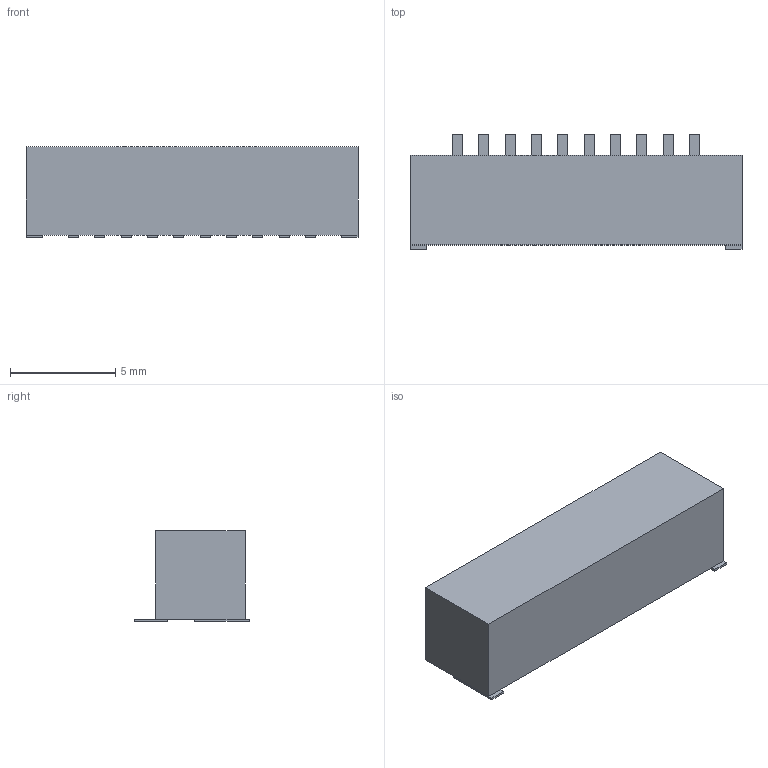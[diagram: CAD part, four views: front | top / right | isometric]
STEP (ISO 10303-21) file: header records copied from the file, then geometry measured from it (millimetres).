
FILE_DESCRIPTION(('FreeCAD Model'),'2;1');
FILE_NAME('/var/www/3D/0T/20812296.1.1.stp','2025-10-16T15:20:15',( 'Author'),(''),'Open CASCADE STEP processor 6.9','FreeCAD','Unknown' );
FILE_SCHEMA(('AUTOMOTIVE_DESIGN { 1 0 10303 214 1 1 1 1 }'));
Length unit declared in the file: millimetre
Products named in the file (3): ASSEMBLY; Body; Pins
Assembly tree (2 placements, depth 2):
  ASSEMBLY
    Body
    Pins
Bounding box: 15.75 x 5.44 x 4.3 mm (x, y, z)
Volume: 282.3 mm3; surface area: 330.8 mm2
Topology: 13 solids, 13 shells, 78 faces, 156 edges, 104 vertices
Faces by surface type: plane 78
Entity records: 4151 total; most frequent: CARTESIAN_POINT 653, DIRECTION 630, LINE 468, VECTOR 468, ORIENTED_EDGE 312, PCURVE 312, DEFINITIONAL_REPRESENTATION 312, EDGE_CURVE 156
